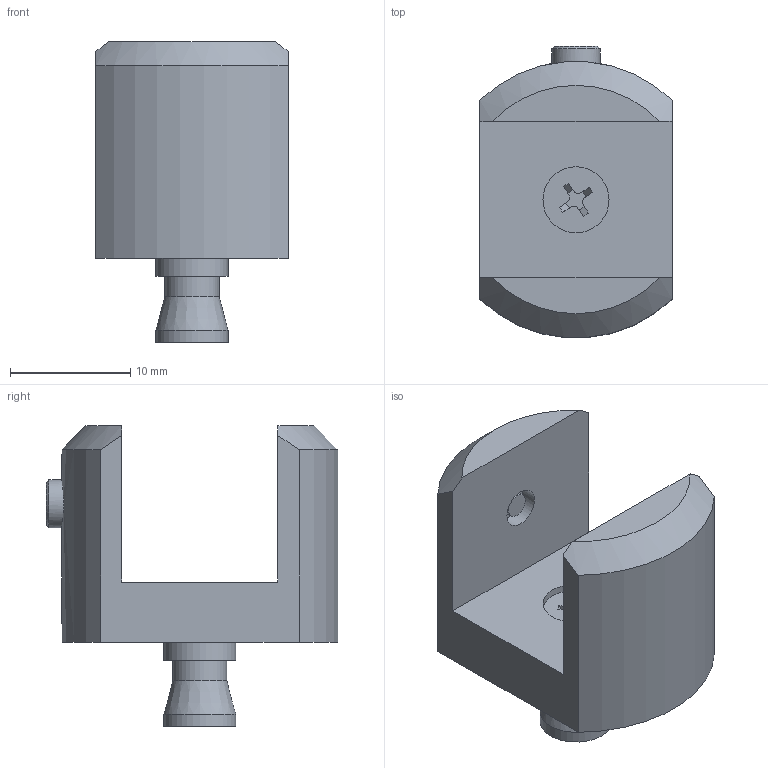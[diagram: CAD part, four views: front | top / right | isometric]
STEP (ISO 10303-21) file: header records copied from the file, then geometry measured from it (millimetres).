
FILE_DESCRIPTION(/* description */ (''),/* implementation_level */ '2;1');
FILE_NAME(/* name */ '5OM100A4-13.stp',/* time_stamp */ '2026-06-03T08:18:50+03:00',/* author */ ('dsgn33'),/* organization */ (''),/* preprocessor_version */ 'ST-DEVELOPER v20',/* originating_system */ 'Autodesk Inventor 2025',/* authorisation */ '');
FILE_SCHEMA (('AUTOMOTIVE_DESIGN { 1 0 10303 214 3 1 1 }'));
Length unit declared in the file: millimetre
Products named in the file (1): 5OM100A4-13_Simplify_1
Bounding box: 16 x 24.21 x 25 mm (x, y, z)
Volume: 3392.3 mm3; surface area: 2157.6 mm2
Topology: 1 solids, 1 shells, 57 faces, 135 edges, 89 vertices
Faces by surface type: plane 35, cylinder 15, cone 7
Full cylindrical faces by diameter (mm): 2 x1, 2.459 x1, 2.5 x1, 3.242 x1, 4 x1, 4.5 x1, 5.5 x1, 6 x2
Entity records: 1787 total; most frequent: CARTESIAN_POINT 333, DIRECTION 276, ORIENTED_EDGE 268, EDGE_CURVE 134, AXIS2_PLACEMENT_3D 94, VERTEX_POINT 89, LINE 88, VECTOR 88
